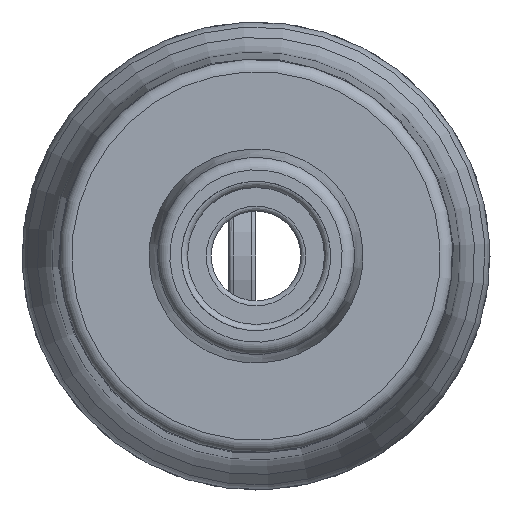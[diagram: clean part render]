
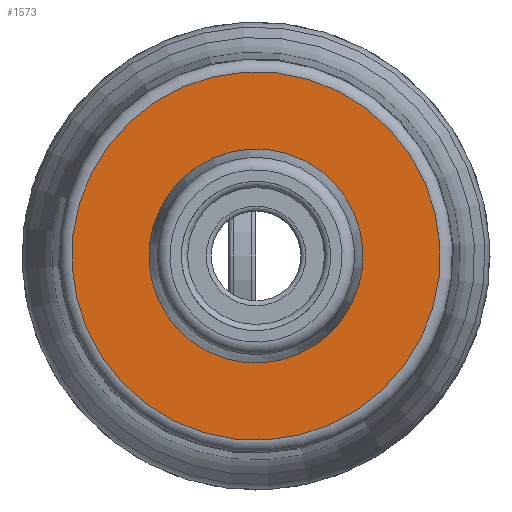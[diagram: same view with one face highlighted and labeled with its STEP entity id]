
A CAD part, left-side view. The second image highlights one B-rep face of the part: STEP entity #1573.
In plain terms, the highlighted planar face has unit normal (-1, 0, 0) as drawn and (1, 0, 0) by its records, which use the part's own axes.
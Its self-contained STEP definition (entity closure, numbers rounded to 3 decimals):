
#1573 = ADVANCED_FACE( '', ( #3377, #3378 ), #3379, .F. );
#3377 = FACE_OUTER_BOUND( '', #8535, .T. );
#3378 = FACE_BOUND( '', #8536, .T. );
#3379 = PLANE( '', #8537 );
#8535 = EDGE_LOOP( '', ( #13169 ) );
#8536 = EDGE_LOOP( '', ( #13170 ) );
#8537 = AXIS2_PLACEMENT_3D( '', #13171, #13172, #13173 );
#13169 = ORIENTED_EDGE( '', *, *, #15503, .F. );
#13170 = ORIENTED_EDGE( '', *, *, #15419, .T. );
#13171 = CARTESIAN_POINT( '', ( -0.61, 0., 4. ) );
#13172 = DIRECTION( '', ( -1., 0., 0. ) );
#13173 = DIRECTION( '', ( 0., 0., 1. ) );
#15419 = EDGE_CURVE( '', #17858, #17858, #17859, .T. );
#15503 = EDGE_CURVE( '', #17959, #17959, #17960, .T. );
#17858 = VERTEX_POINT( '', #23011 );
#17859 = CIRCLE( '', #23012, 4. );
#17959 = VERTEX_POINT( '', #23278 );
#17960 = CIRCLE( '', #23279, 7.4 );
#23011 = CARTESIAN_POINT( '', ( -0.61, 0., 4. ) );
#23012 = AXIS2_PLACEMENT_3D( '', #25601, #25602, #25603 );
#23278 = CARTESIAN_POINT( '', ( -0.61, 0., 7.4 ) );
#23279 = AXIS2_PLACEMENT_3D( '', #25679, #25680, #25681 );
#25601 = CARTESIAN_POINT( '', ( -0.61, 0., 0. ) );
#25602 = DIRECTION( '', ( -1., 0., 0. ) );
#25603 = DIRECTION( '', ( 0., 0., 1. ) );
#25679 = CARTESIAN_POINT( '', ( -0.61, 0., 0. ) );
#25680 = DIRECTION( '', ( -1., 0., 0. ) );
#25681 = DIRECTION( '', ( 0., 0., 1. ) );
